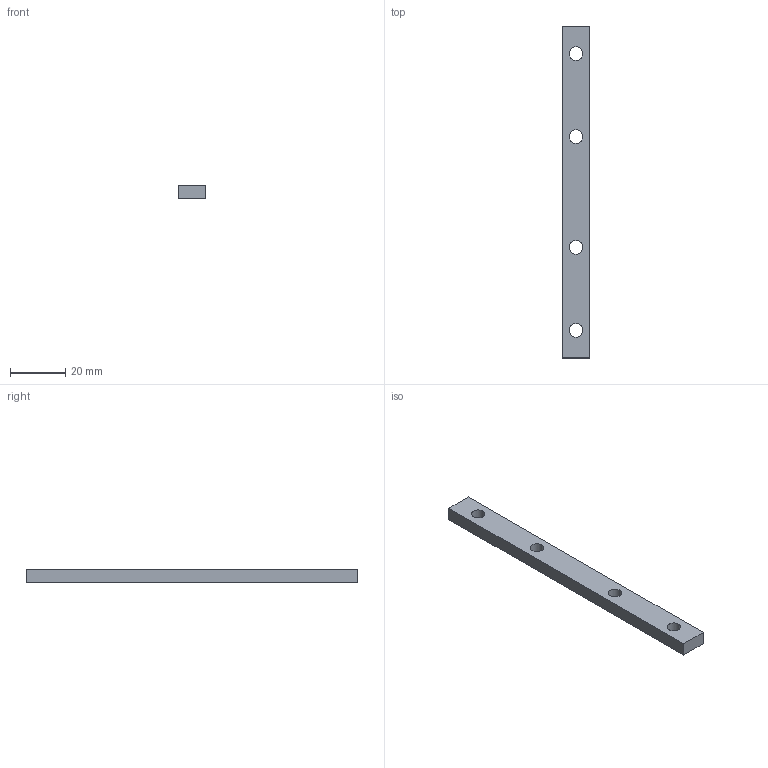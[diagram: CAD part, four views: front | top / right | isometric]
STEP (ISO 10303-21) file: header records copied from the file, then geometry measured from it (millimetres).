
FILE_DESCRIPTION(/* description */ ('Unknown'),/* implementation_level */ '2;1');
FILE_NAME(/* name */ 'TI06120',/* time_stamp */ '2026-09-29T09:08:06+08:00',/* author */ ('Unknown'),/* organization */ ('Unknown'),/* preprocessor_version */ 'ST-DEVELOPER v16.7',/* originating_system */ 'DEX',/* authorisation */ $);
FILE_SCHEMA (('AUTOMOTIVE_DESIGN {1 0 10303 214 3 1 1}'));
Length unit declared in the file: millimetre
Products named in the file (1): TI06120
Bounding box: 10 x 120 x 5 mm (x, y, z)
Volume: 5620.2 mm3; surface area: 3857 mm2
Topology: 1 solids, 1 shells, 10 faces, 28 edges, 20 vertices
Faces by surface type: plane 6, cylinder 4
Full cylindrical faces by diameter (mm): 4.917 x4
Entity records: 386 total; most frequent: DIRECTION 50, CARTESIAN_POINT 47, ORIENTED_EDGE 40, EDGE_LOOP 22, FACE_BOUND 22, EDGE_CURVE 20, AXIS2_PLACEMENT_3D 19, VERTEX_POINT 16
